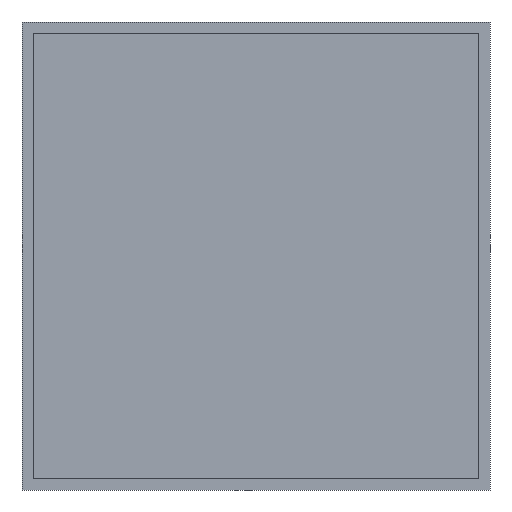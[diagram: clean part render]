
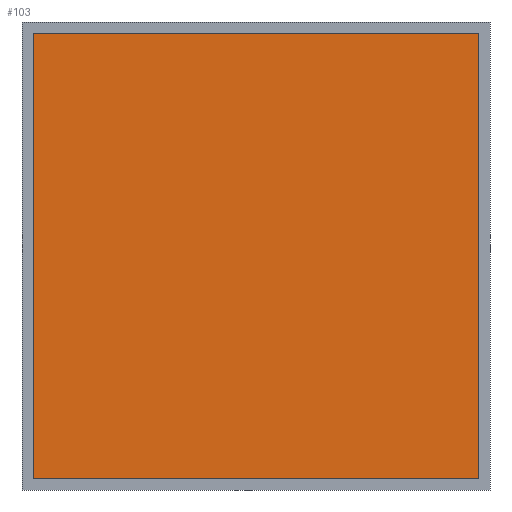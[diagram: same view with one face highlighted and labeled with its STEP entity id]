
A CAD part, front view. The second image highlights one B-rep face of the part: STEP entity #103.
In plain terms, the highlighted planar face has unit normal (0, -1, 0).
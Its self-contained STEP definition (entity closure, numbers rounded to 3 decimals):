
#1 = VERTEX_POINT ( 'NONE', #94 ) ;
#13 = AXIS2_PLACEMENT_3D ( 'NONE', #590, #537, #146 ) ;
#75 = CARTESIAN_POINT ( 'NONE',  ( -73.884, 122.272, -57.781 ) ) ;
#94 = CARTESIAN_POINT ( 'NONE',  ( 40.116, 122.272, 56.219 ) ) ;
#103 = ADVANCED_FACE ( 'NONE', ( #180 ), #144, .T. ) ;
#106 = VECTOR ( 'NONE', #525, 1000. ) ;
#110 = LINE ( 'NONE', #384, #264 ) ;
#144 = PLANE ( 'NONE',  #13 ) ;
#146 = DIRECTION ( 'NONE',  ( 0., 0., -1. ) ) ;
#170 = EDGE_CURVE ( 'NONE', #376, #303, #336, .T. ) ;
#180 = FACE_OUTER_BOUND ( 'NONE', #577, .T. ) ;
#181 = ORIENTED_EDGE ( 'NONE', *, *, #679, .T. ) ;
#183 = LINE ( 'NONE', #388, #490 ) ;
#190 = ORIENTED_EDGE ( 'NONE', *, *, #723, .T. ) ;
#192 = CARTESIAN_POINT ( 'NONE',  ( 40.116, 122.272, -57.781 ) ) ;
#264 = VECTOR ( 'NONE', #325, 1000. ) ;
#268 = CARTESIAN_POINT ( 'NONE',  ( -73.884, 122.272, -57.781 ) ) ;
#291 = VERTEX_POINT ( 'NONE', #586 ) ;
#302 = CARTESIAN_POINT ( 'NONE',  ( -73.884, 122.272, 56.219 ) ) ;
#303 = VERTEX_POINT ( 'NONE', #192 ) ;
#308 = DIRECTION ( 'NONE',  ( 1., 0., 0. ) ) ;
#325 = DIRECTION ( 'NONE',  ( 0., 0., 1. ) ) ;
#336 = LINE ( 'NONE', #75, #478 ) ;
#362 = EDGE_CURVE ( 'NONE', #303, #1, #110, .T. ) ;
#376 = VERTEX_POINT ( 'NONE', #268 ) ;
#384 = CARTESIAN_POINT ( 'NONE',  ( 40.116, 122.272, 56.219 ) ) ;
#388 = CARTESIAN_POINT ( 'NONE',  ( -73.884, 122.272, 56.219 ) ) ;
#412 = ORIENTED_EDGE ( 'NONE', *, *, #170, .T. ) ;
#426 = LINE ( 'NONE', #302, #106 ) ;
#478 = VECTOR ( 'NONE', #308, 1000. ) ;
#490 = VECTOR ( 'NONE', #707, 1000. ) ;
#523 = ORIENTED_EDGE ( 'NONE', *, *, #362, .T. ) ;
#525 = DIRECTION ( 'NONE',  ( -1., 0., 0. ) ) ;
#537 = DIRECTION ( 'NONE',  ( 0., -1., 0. ) ) ;
#577 = EDGE_LOOP ( 'NONE', ( #190, #412, #523, #181 ) ) ;
#586 = CARTESIAN_POINT ( 'NONE',  ( -73.884, 122.272, 56.219 ) ) ;
#590 = CARTESIAN_POINT ( 'NONE',  ( 0., 122.272, 0. ) ) ;
#679 = EDGE_CURVE ( 'NONE', #1, #291, #426, .T. ) ;
#707 = DIRECTION ( 'NONE',  ( 0., 0., -1. ) ) ;
#723 = EDGE_CURVE ( 'NONE', #291, #376, #183, .T. ) ;
